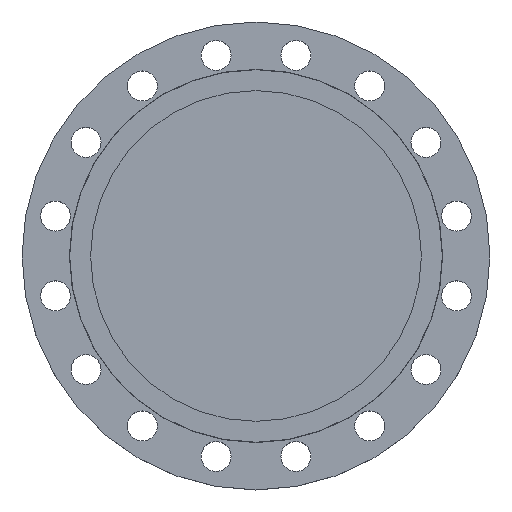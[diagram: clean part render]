
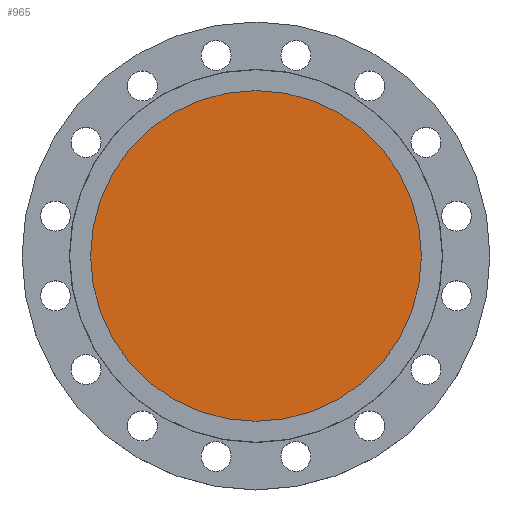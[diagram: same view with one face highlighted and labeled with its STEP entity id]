
A CAD part, top view. The second image highlights one B-rep face of the part: STEP entity #965.
In plain terms, the highlighted planar face has unit normal (0, 0, 1).
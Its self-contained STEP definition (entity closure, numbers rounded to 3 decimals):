
#6 = AXIS2_PLACEMENT_3D ( 'NONE', #123, #122, #121 ) ;
#12 = DIRECTION ( 'NONE',  ( 1., 0., 0. ) ) ;
#13 = DIRECTION ( 'NONE',  ( 0., 0., 1. ) ) ;
#14 = CARTESIAN_POINT ( 'NONE',  ( 182., 0., -4.5 ) ) ;
#16 = PLANE ( 'NONE',  #697 ) ;
#17 = FACE_OUTER_BOUND ( 'NONE', #413, .T. ) ;
#89 = CARTESIAN_POINT ( 'NONE',  ( 182., 0., -4.5 ) ) ;
#121 = DIRECTION ( 'NONE',  ( -1., 0., 0. ) ) ;
#122 = DIRECTION ( 'NONE',  ( 0., 0., -1. ) ) ;
#123 = CARTESIAN_POINT ( 'NONE',  ( 0., 0., -4.5 ) ) ;
#125 = CIRCLE ( 'NONE', #6, 182. ) ;
#249 = EDGE_CURVE ( 'NONE', #1046, #847, #602, .T. ) ;
#301 = DIRECTION ( 'NONE',  ( -1., 0., 0. ) ) ;
#302 = DIRECTION ( 'NONE',  ( 0., 0., -1. ) ) ;
#303 = CARTESIAN_POINT ( 'NONE',  ( 0., 0., -4.5 ) ) ;
#413 = EDGE_LOOP ( 'NONE', ( #718, #719 ) ) ;
#602 = CIRCLE ( 'NONE', #1242, 182. ) ;
#697 = AXIS2_PLACEMENT_3D ( 'NONE', #14, #13, #12 ) ;
#718 = ORIENTED_EDGE ( 'NONE', *, *, #249, .F. ) ;
#719 = ORIENTED_EDGE ( 'NONE', *, *, #740, .F. ) ;
#740 = EDGE_CURVE ( 'NONE', #847, #1046, #125, .T. ) ;
#847 = VERTEX_POINT ( 'NONE', #89 ) ;
#965 = ADVANCED_FACE ( 'NONE', ( #17 ), #16, .T. ) ;
#1046 = VERTEX_POINT ( 'NONE', #1458 ) ;
#1242 = AXIS2_PLACEMENT_3D ( 'NONE', #303, #302, #301 ) ;
#1458 = CARTESIAN_POINT ( 'NONE',  ( -182., 0., -4.5 ) ) ;
